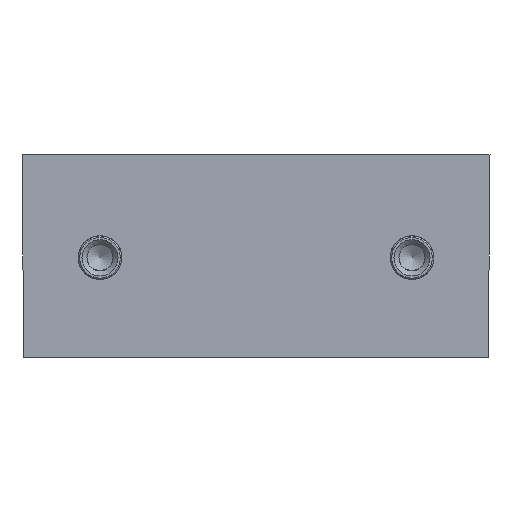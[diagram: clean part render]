
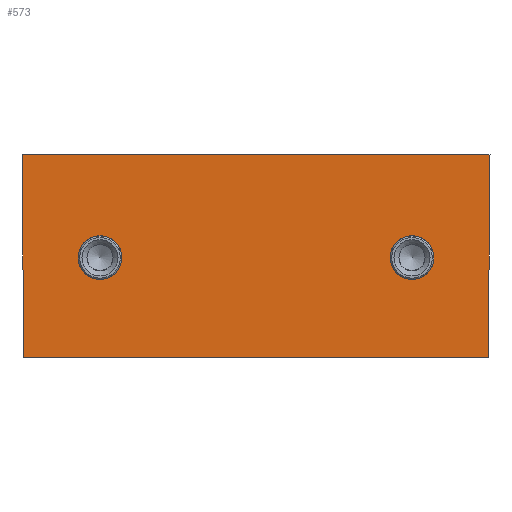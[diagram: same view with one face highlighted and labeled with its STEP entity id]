
A CAD part, front view. The second image highlights one B-rep face of the part: STEP entity #573.
In plain terms, the highlighted planar face has unit normal (0, -1, -0.009).
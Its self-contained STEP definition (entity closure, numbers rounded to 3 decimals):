
#573=ADVANCED_FACE('',(#1381,#1383,#1385),#1387,.T.);
#1381=FACE_BOUND('',#1382,.T.);
#1382=EDGE_LOOP('',(#2115,#2116,#2117,#2118));
#1383=FACE_BOUND('',#1384,.T.);
#1384=EDGE_LOOP('',(#2119));
#1385=FACE_BOUND('',#1386,.T.);
#1386=EDGE_LOOP('',(#2120));
#1387=PLANE('',#1388);
#1388=AXIS2_PLACEMENT_3D('',#1389,#1390,#1391);
#1389=CARTESIAN_POINT('',(0.,-81.641,253.093));
#1390=DIRECTION('',(-0.,-1.,-0.009));
#1391=DIRECTION('',(-1.,0.,0.));
#2115=ORIENTED_EDGE('',*,*,#2411,.F.);
#2116=ORIENTED_EDGE('',*,*,#2361,.T.);
#2117=ORIENTED_EDGE('',*,*,#2412,.T.);
#2118=ORIENTED_EDGE('',*,*,#2349,.T.);
#2119=ORIENTED_EDGE('',*,*,#2413,.T.);
#2120=ORIENTED_EDGE('',*,*,#2414,.F.);
#2349=EDGE_CURVE('',#2521,#2519,#2522,.T.);
#2361=EDGE_CURVE('',#2543,#2541,#2544,.T.);
#2411=EDGE_CURVE('',#2543,#2519,#2638,.T.);
#2412=EDGE_CURVE('',#2541,#2521,#2639,.T.);
#2413=EDGE_CURVE('',#2640,#2640,#2641,.T.);
#2414=EDGE_CURVE('',#2642,#2642,#2643,.T.);
#2519=VERTEX_POINT('',#2829);
#2521=VERTEX_POINT('',#2833);
#2522=LINE('',#2834,#2835);
#2541=VERTEX_POINT('',#2875);
#2543=VERTEX_POINT('',#2879);
#2544=LINE('',#2880,#2881);
#2638=LINE('',#3088,#3089);
#2639=LINE('',#3091,#3092);
#2640=VERTEX_POINT('',#3094);
#2641=(BOUNDED_CURVE()B_SPLINE_CURVE(3,
(#3095,#3096,#3097,#3098,#3099,#3100,#3101),
.UNSPECIFIED.,.T.,.F.)B_SPLINE_CURVE_WITH_KNOTS((4,3,4),
(0.,0.5,1.),
.UNSPECIFIED.)CURVE()GEOMETRIC_REPRESENTATION_ITEM()RATIONAL_B_SPLINE_CURVE((1.,
0.333,0.333,1.,0.333,0.333,1.))
REPRESENTATION_ITEM(''));
#2642=VERTEX_POINT('',#3102);
#2643=(BOUNDED_CURVE()B_SPLINE_CURVE(3,
(#3103,#3104,#3105,#3106,#3107,#3108,#3109),
.UNSPECIFIED.,.T.,.F.)B_SPLINE_CURVE_WITH_KNOTS((4,3,4),
(0.,0.5,1.),
.UNSPECIFIED.)CURVE()GEOMETRIC_REPRESENTATION_ITEM()RATIONAL_B_SPLINE_CURVE((1.,
0.333,0.333,1.,0.333,0.333,1.))
REPRESENTATION_ITEM(''));
#2829=CARTESIAN_POINT('',(-75.,-80.,65.));
#2833=CARTESIAN_POINT('',(75.,-80.,65.));
#2834=CARTESIAN_POINT('',(75.,-80.,65.));
#2835=VECTOR('',#2836,1.);
#2836=DIRECTION('',(-1.,0.,0.));
#2875=CARTESIAN_POINT('',(74.433,-79.433,0.));
#2879=CARTESIAN_POINT('',(-74.433,-79.433,0.));
#2880=CARTESIAN_POINT('',(-74.433,-79.433,0.));
#2881=VECTOR('',#2882,1.);
#2882=DIRECTION('',(1.,0.,0.));
#3088=CARTESIAN_POINT('',(-74.433,-79.433,0.));
#3089=VECTOR('',#3090,1.);
#3090=DIRECTION('',(-0.009,-0.009,1.));
#3091=CARTESIAN_POINT('',(74.433,-79.433,0.));
#3092=VECTOR('',#3093,1.);
#3093=DIRECTION('',(0.009,-0.009,1.));
#3094=CARTESIAN_POINT('',(-43.,-79.712,32.));
#3095=CARTESIAN_POINT('',(-43.,-79.712,32.));
#3096=CARTESIAN_POINT('',(-43.,-79.59,18.));
#3097=CARTESIAN_POINT('',(-57.,-79.59,18.));
#3098=CARTESIAN_POINT('',(-57.,-79.712,32.));
#3099=CARTESIAN_POINT('',(-57.,-79.834,46.));
#3100=CARTESIAN_POINT('',(-43.,-79.834,46.));
#3101=CARTESIAN_POINT('',(-43.,-79.712,32.));
#3102=CARTESIAN_POINT('',(43.,-79.712,32.));
#3103=CARTESIAN_POINT('',(43.,-79.712,32.));
#3104=CARTESIAN_POINT('',(43.,-79.59,18.));
#3105=CARTESIAN_POINT('',(57.,-79.59,18.));
#3106=CARTESIAN_POINT('',(57.,-79.712,32.));
#3107=CARTESIAN_POINT('',(57.,-79.834,46.));
#3108=CARTESIAN_POINT('',(43.,-79.834,46.));
#3109=CARTESIAN_POINT('',(43.,-79.712,32.));
